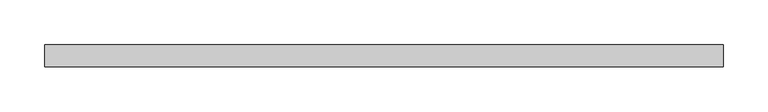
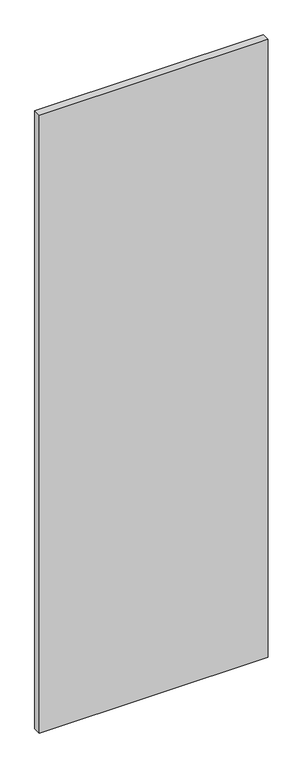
"""IFC4 building model written with IfcOpenShell, lengths in millimetres: plate geometry, 系统嵌板 : 玻璃."""

from ifc_helpers import new_model, si_unit, origin, origin_with_axes, place, context, project, spatial, polyline, outline, extrude, source, transform, mapped, element, save


def plate_2cb35099(model_context):
    return source(origin(), model_context, "Body", "SweptSolid", [
        extrude(outline(polyline([(380.0, -12.5), (-380.0, -12.5), (-380.0, 12.5), (380.0, 12.5), (380.0, -12.5)])), origin_with_axes(), (0.0, 0.0, 1.0), 2170.0),
    ])


if __name__ == "__main__":
    model = new_model("IFC4")
    model_context = context("Model", 3, world=origin())
    ifc_project = project(units=[si_unit("LENGTHUNIT", "METRE", prefix="MILLI")], contexts=[model_context])
    site = spatial("IfcSite", under=ifc_project)
    building = spatial("IfcBuilding", under=site)
    placement = place(None, origin())
    plate_shape = plate_2cb35099(model_context)
    element("IfcPlate", 1, ObjectType="系统嵌板 : 玻璃", at=placement, inside=building, context=model_context, shape_type="MappedRepresentation", body=[
        mapped(plate_shape, transform((0.0, 0.0, 0.0), x_axis=(1.0, 0.0, 0.0), y_axis=(0.0, 1.0, 0.0), z_axis=(0.0, 0.0, 1.0))),
    ])
    save(model, "model.ifc")
